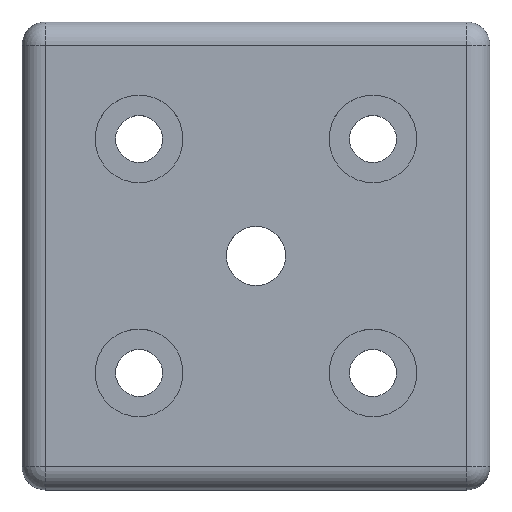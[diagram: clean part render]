
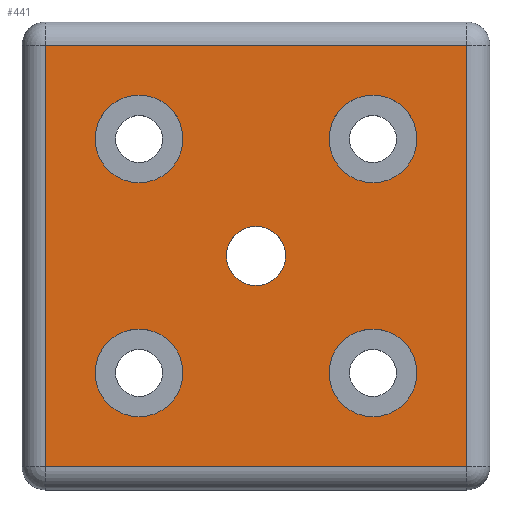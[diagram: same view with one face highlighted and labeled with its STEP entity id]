
A CAD part, top view. The second image highlights one B-rep face of the part: STEP entity #441.
In plain terms, the highlighted planar face has unit normal (0, 0, 1).
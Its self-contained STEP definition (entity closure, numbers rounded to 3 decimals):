
#32=CIRCLE('',#494,7.5);
#33=CIRCLE('',#495,7.5);
#34=CIRCLE('',#496,7.5);
#35=CIRCLE('',#497,7.5);
#36=CIRCLE('',#498,5.053);
#107=ORIENTED_EDGE('',*,*,#207,.T.);
#108=ORIENTED_EDGE('',*,*,#208,.T.);
#109=ORIENTED_EDGE('',*,*,#209,.T.);
#110=ORIENTED_EDGE('',*,*,#210,.T.);
#111=ORIENTED_EDGE('',*,*,#211,.T.);
#112=ORIENTED_EDGE('',*,*,#212,.T.);
#113=ORIENTED_EDGE('',*,*,#213,.T.);
#114=ORIENTED_EDGE('',*,*,#214,.T.);
#115=ORIENTED_EDGE('',*,*,#215,.T.);
#207=EDGE_CURVE('',#253,#253,#32,.T.);
#208=EDGE_CURVE('',#254,#254,#33,.T.);
#209=EDGE_CURVE('',#255,#255,#34,.T.);
#210=EDGE_CURVE('',#256,#256,#35,.T.);
#211=EDGE_CURVE('',#257,#257,#36,.T.);
#212=EDGE_CURVE('',#258,#259,#291,.T.);
#213=EDGE_CURVE('',#259,#260,#292,.T.);
#214=EDGE_CURVE('',#260,#261,#293,.T.);
#215=EDGE_CURVE('',#261,#258,#294,.T.);
#253=VERTEX_POINT('',#745);
#254=VERTEX_POINT('',#747);
#255=VERTEX_POINT('',#749);
#256=VERTEX_POINT('',#751);
#257=VERTEX_POINT('',#753);
#258=VERTEX_POINT('',#755);
#259=VERTEX_POINT('',#756);
#260=VERTEX_POINT('',#758);
#261=VERTEX_POINT('',#760);
#291=LINE('',#754,#311);
#292=LINE('',#757,#312);
#293=LINE('',#759,#313);
#294=LINE('',#761,#314);
#311=VECTOR('',#604,1000.);
#312=VECTOR('',#605,1000.);
#313=VECTOR('',#606,1000.);
#314=VECTOR('',#607,1000.);
#323=EDGE_LOOP('',(#107));
#324=EDGE_LOOP('',(#108));
#325=EDGE_LOOP('',(#109));
#326=EDGE_LOOP('',(#110));
#327=EDGE_LOOP('',(#111));
#328=EDGE_LOOP('',(#112,#113,#114,#115));
#377=FACE_BOUND('',#323,.T.);
#378=FACE_BOUND('',#324,.T.);
#379=FACE_BOUND('',#325,.T.);
#380=FACE_BOUND('',#326,.T.);
#381=FACE_BOUND('',#327,.T.);
#382=FACE_BOUND('',#328,.T.);
#427=PLANE('',#493);
#441=ADVANCED_FACE('',(#377,#378,#379,#380,#381,#382),#427,.T.);
#493=AXIS2_PLACEMENT_3D('',#743,#592,#593);
#494=AXIS2_PLACEMENT_3D('',#744,#594,#595);
#495=AXIS2_PLACEMENT_3D('',#746,#596,#597);
#496=AXIS2_PLACEMENT_3D('',#748,#598,#599);
#497=AXIS2_PLACEMENT_3D('',#750,#600,#601);
#498=AXIS2_PLACEMENT_3D('',#752,#602,#603);
#592=DIRECTION('',(0.,0.,1.));
#593=DIRECTION('',(1.,0.,0.));
#594=DIRECTION('',(0.,0.,-1.));
#595=DIRECTION('',(-1.,0.,0.));
#596=DIRECTION('',(0.,0.,-1.));
#597=DIRECTION('',(-1.,0.,0.));
#598=DIRECTION('',(0.,0.,-1.));
#599=DIRECTION('',(-1.,0.,0.));
#600=DIRECTION('',(0.,0.,-1.));
#601=DIRECTION('',(-1.,0.,0.));
#602=DIRECTION('',(0.,0.,-1.));
#603=DIRECTION('',(-1.,0.,0.));
#604=DIRECTION('',(0.,1.,0.));
#605=DIRECTION('',(-1.,0.,0.));
#606=DIRECTION('',(0.,-1.,0.));
#607=DIRECTION('',(1.,0.,0.));
#743=CARTESIAN_POINT('',(-36.,-36.,16.));
#744=CARTESIAN_POINT('',(-20.,20.,16.));
#745=CARTESIAN_POINT('',(-27.5,20.,16.));
#746=CARTESIAN_POINT('',(20.,-20.,16.));
#747=CARTESIAN_POINT('',(12.5,-20.,16.));
#748=CARTESIAN_POINT('',(-20.,-20.,16.));
#749=CARTESIAN_POINT('',(-27.5,-20.,16.));
#750=CARTESIAN_POINT('',(20.,20.,16.));
#751=CARTESIAN_POINT('',(12.5,20.,16.));
#752=CARTESIAN_POINT('',(0.,0.,16.));
#753=CARTESIAN_POINT('',(-5.053,0.,16.));
#754=CARTESIAN_POINT('',(36.,36.,16.));
#755=CARTESIAN_POINT('',(36.,-36.,16.));
#756=CARTESIAN_POINT('',(36.,36.,16.));
#757=CARTESIAN_POINT('',(-36.,36.,16.));
#758=CARTESIAN_POINT('',(-36.,36.,16.));
#759=CARTESIAN_POINT('',(-36.,-36.,16.));
#760=CARTESIAN_POINT('',(-36.,-36.,16.));
#761=CARTESIAN_POINT('',(36.,-36.,16.));
